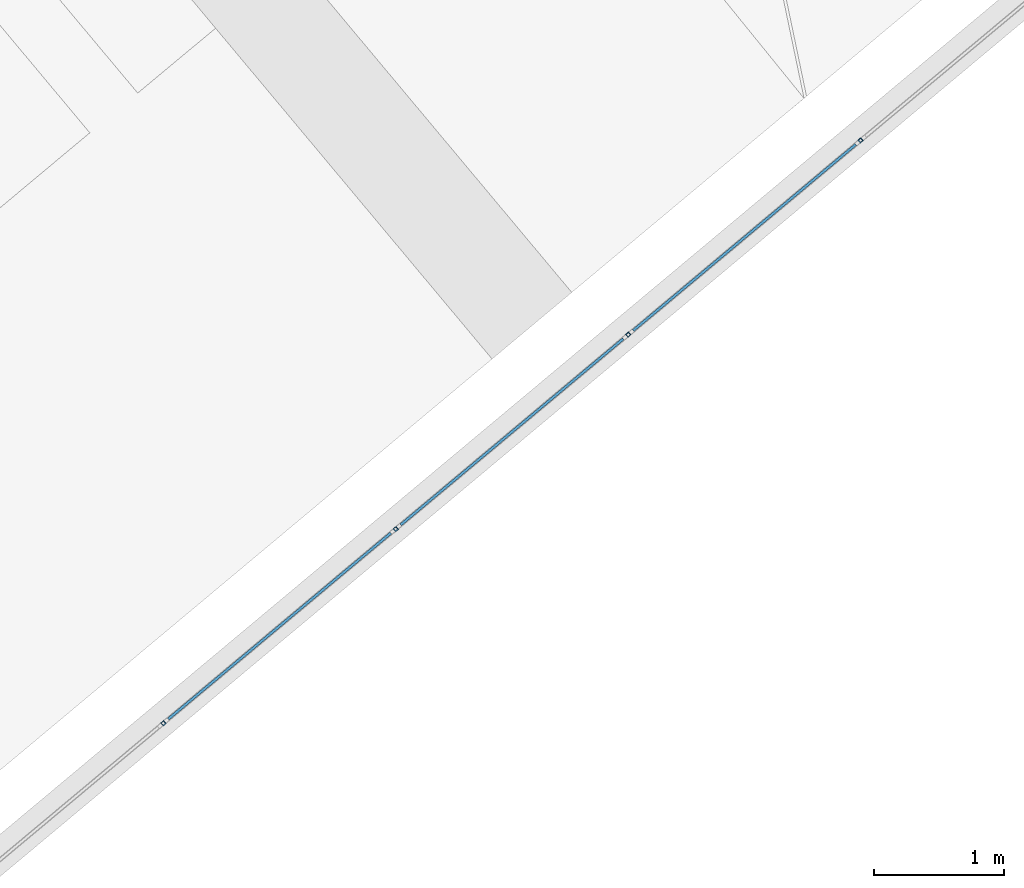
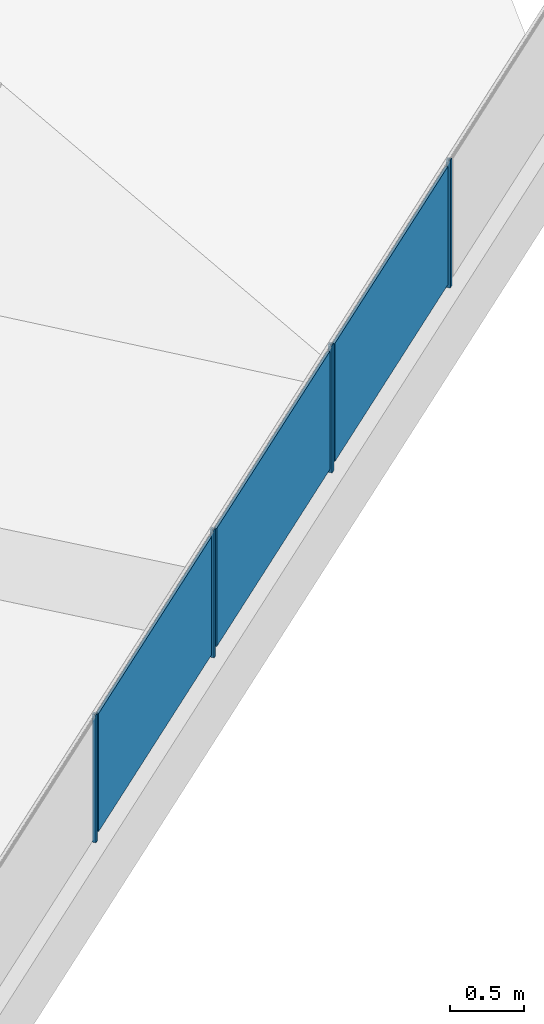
# One storey, part 25 of 67: 7 building element parts, 1 element without a shape of its own.
"""IFC4 building model written with IfcOpenShell, lengths in metres."""

from ifc_helpers import new_model, entity, si_unit, converted_unit, derived_unit, direction, frame, origin_with_axes, place, context, subcontext, project, spatial, polygons, material, type_object, element, aggregate, save


model = new_model("IFC4")

# Units and contexts
model_context = context("Model", 3, precision=1e-05, world=origin_with_axes(), true_north=direction((0.0, 1.0)))
body_context = subcontext(model_context, "Body", "Model", "MODEL_VIEW")
ifc_project = project(units=[si_unit("LENGTHUNIT", "METRE"), si_unit("AREAUNIT", "SQUARE_METRE"), si_unit("VOLUMEUNIT", "CUBIC_METRE"), converted_unit("PLANEANGLEUNIT", "DEGREE", entity("IfcPlaneAngleMeasure", 0.0174532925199), si_unit("PLANEANGLEUNIT", "RADIAN"), dimensions=[0, 0, 0, 0, 0, 0, 0]), converted_unit("TIMEUNIT", "Year", entity("IfcTimeMeasure", 31556926.0), si_unit("TIMEUNIT", "SECOND"), dimensions=[0, 0, 1, 0, 0, 0, 0]), si_unit("MASSUNIT", "GRAM", prefix="KILO"), si_unit("THERMODYNAMICTEMPERATUREUNIT", "DEGREE_CELSIUS"), si_unit("LUMINOUSINTENSITYUNIT", "LUMEN"), si_unit("ENERGYUNIT", "JOULE", prefix="MEGA"), derived_unit("THERMALCONDUCTANCEUNIT", [(si_unit("POWERUNIT", "WATT"), 1), (si_unit("LENGTHUNIT", "METRE"), -1), (si_unit("THERMODYNAMICTEMPERATUREUNIT", "KELVIN"), -1)]), derived_unit("SPECIFICHEATCAPACITYUNIT", [(si_unit("ENERGYUNIT", "JOULE"), 1), (si_unit("MASSUNIT", "GRAM", prefix="KILO"), -1), (si_unit("THERMODYNAMICTEMPERATUREUNIT", "KELVIN"), -1)]), derived_unit("MASSDENSITYUNIT", [(si_unit("MASSUNIT", "GRAM", prefix="KILO"), 1), (si_unit("VOLUMEUNIT", "CUBIC_METRE"), -1)])], contexts=[model_context])

# Site, building, storey
site_placement = place(None, frame((-0.00153261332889, -0.00661245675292, 0.0), z_axis=(0.0, 0.0, 1.0), x_axis=(1.0, 0.0, 0.0)))
site = spatial("IfcSite", under=ifc_project, at=site_placement, Name="Site", CompositionType="ELEMENT")
building_placement = place(site_placement, origin_with_axes())
building = spatial("IfcBuilding", under=site, at=building_placement, Name="Building", CompositionType="ELEMENT")
storey_placement = place(building_placement, frame((0.0, 0.0, -0.22), z_axis=(0.0, 0.0, 1.0), x_axis=(1.0, 0.0, 0.0)))
storey = spatial("IfcBuildingStorey", under=building, at=storey_placement, Name="EG", CompositionType="ELEMENT", Elevation=-0.22)

# Railing, building element parts
railing_type = type_object("IfcRailingType", Name="Geländerart", PredefinedType="NOTDEFINED")
railing_placement = place(storey_placement, frame((-12.1608341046, 23.557810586, 0.523948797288), z_axis=(0.0, 0.0, 1.0), x_axis=(1.0, 0.0, 0.0)))
railing = element("IfcRailing", 1, at=railing_placement, inside=storey, type_object=railing_type, Name="Geländer - 001", PredefinedType="NOTDEFINED")
ifc_material_1 = material(Name="Aluminium")
building_element_part_1_placement = place(railing_placement, origin_with_axes())
building_element_part_1 = element("IfcBuildingElementPart", 2, at=building_element_part_1_placement, material=ifc_material_1, Name="Aluminium", PredefinedType="NOTDEFINED", context=body_context, shape_type="Tessellation", body=[
    polygons([(22.9423490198, -14.4311782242, 0.0), (22.9231108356, -14.4081588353, 0.0), (22.9231108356, -14.4081588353, 1.06), (22.9423490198, -14.4311782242, 1.06), (22.9193296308, -14.4504164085, 0.0), (22.9000914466, -14.4273970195, 0.0), (22.9353060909, -14.4305480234, 0.0), (22.9224806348, -14.4152017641, 0.0), (22.9071343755, -14.4280272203, 0.0), (22.9199598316, -14.4433734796, 0.0), (22.9000914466, -14.4273970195, 1.06), (22.9193296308, -14.4504164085, 1.06), (22.9353060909, -14.4305480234, 1.06), (22.9199598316, -14.4433734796, 1.06), (22.9071343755, -14.4280272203, 1.06), (22.9224806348, -14.4152017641, 1.06)], [[[1, 2, 3, 4]], [[1, 5, 6, 2], [7, 8, 9, 10]], [[2, 6, 11, 3]], [[4, 3, 11, 12], [13, 14, 15, 16]], [[5, 1, 4, 12]], [[6, 5, 12, 11]], [[8, 7, 13, 16]], [[9, 8, 16, 15]], [[10, 9, 15, 14]], [[7, 10, 14, 13]]], closed=True),
])
ifc_material_2 = material(Name="Zaun")
building_element_part_2_placement = place(railing_placement, origin_with_axes())
building_element_part_2 = element("IfcBuildingElementPart", 3, at=building_element_part_2_placement, material=ifc_material_2, Name="Zaun", PredefinedType="NOTDEFINED", context=body_context, shape_type="Tessellation", body=[
    polygons([(24.6673535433, -12.956944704, 0.05), (22.9531731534, -14.3895508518, 0.05), (22.9531731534, -14.3895508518, 1.03), (24.6673535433, -12.956944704, 1.03), (22.9659986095, -14.4048971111, 0.05), (24.6801789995, -12.9722909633, 0.05), (22.9659986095, -14.4048971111, 1.03), (24.6801789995, -12.9722909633, 1.03)], [[[1, 2, 3, 4]], [[5, 2, 1, 6]], [[7, 3, 2, 5]], [[4, 3, 7, 8]], [[1, 4, 8, 6]], [[7, 5, 6, 8]]], closed=True),
])
building_element_part_3_placement = place(railing_placement, origin_with_axes())
building_element_part_3 = element("IfcBuildingElementPart", 4, at=building_element_part_3_placement, material=ifc_material_1, Name="Aluminium", PredefinedType="NOTDEFINED", context=body_context, shape_type="Tessellation", body=[
    polygons([(24.7332607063, -12.9344447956, 0.0), (24.714022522, -12.9114254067, 0.0), (24.714022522, -12.9114254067, 1.06), (24.7332607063, -12.9344447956, 1.06), (24.7102413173, -12.9536829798, 0.0), (24.6910031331, -12.9306635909, 0.0), (24.7262177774, -12.9338145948, 0.0), (24.7133923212, -12.9184683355, 0.0), (24.6980460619, -12.9312937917, 0.0), (24.7108715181, -12.946640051, 0.0), (24.6910031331, -12.9306635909, 1.06), (24.7102413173, -12.9536829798, 1.06), (24.7262177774, -12.9338145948, 1.06), (24.7108715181, -12.946640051, 1.06), (24.6980460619, -12.9312937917, 1.06), (24.7133923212, -12.9184683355, 1.06)], [[[1, 2, 3, 4]], [[1, 5, 6, 2], [7, 8, 9, 10]], [[2, 6, 11, 3]], [[4, 3, 11, 12], [13, 14, 15, 16]], [[5, 1, 4, 12]], [[6, 5, 12, 11]], [[8, 7, 13, 16]], [[9, 8, 16, 15]], [[10, 9, 15, 14]], [[7, 10, 14, 13]]], closed=True),
])
building_element_part_4_placement = place(railing_placement, origin_with_axes())
building_element_part_4 = element("IfcBuildingElementPart", 5, at=building_element_part_4_placement, material=ifc_material_2, Name="Zaun", PredefinedType="NOTDEFINED", context=body_context, shape_type="Tessellation", body=[
    polygons([(26.4582652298, -11.4602112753, 0.05), (24.7440848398, -12.8928174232, 0.05), (24.7440848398, -12.8928174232, 1.03), (26.4582652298, -11.4602112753, 1.03), (24.756910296, -12.9081636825, 0.05), (26.4710906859, -11.4755575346, 0.05), (24.756910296, -12.9081636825, 1.03), (26.4710906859, -11.4755575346, 1.03)], [[[1, 2, 3, 4]], [[5, 2, 1, 6]], [[7, 3, 2, 5]], [[4, 3, 7, 8]], [[1, 4, 8, 6]], [[7, 5, 6, 8]]], closed=True),
])
building_element_part_5_placement = place(railing_placement, origin_with_axes())
building_element_part_5 = element("IfcBuildingElementPart", 6, at=building_element_part_5_placement, material=ifc_material_1, Name="Aluminium", PredefinedType="NOTDEFINED", context=body_context, shape_type="Tessellation", body=[
    polygons([(26.5241723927, -11.437711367, 0.0), (26.5049342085, -11.414691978, 0.0), (26.5049342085, -11.414691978, 1.06), (26.5241723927, -11.437711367, 1.06), (26.5011530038, -11.4569495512, 0.0), (26.4819148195, -11.4339301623, 0.0), (26.5171294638, -11.4370811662, 0.0), (26.5043040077, -11.4217349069, 0.0), (26.4889577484, -11.434560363, 0.0), (26.5017832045, -11.4499066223, 0.0), (26.4819148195, -11.4339301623, 1.06), (26.5011530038, -11.4569495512, 1.06), (26.5171294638, -11.4370811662, 1.06), (26.5017832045, -11.4499066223, 1.06), (26.4889577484, -11.434560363, 1.06), (26.5043040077, -11.4217349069, 1.06)], [[[1, 2, 3, 4]], [[1, 5, 6, 2], [7, 8, 9, 10]], [[2, 6, 11, 3]], [[4, 3, 11, 12], [13, 14, 15, 16]], [[5, 1, 4, 12]], [[6, 5, 12, 11]], [[8, 7, 13, 16]], [[9, 8, 16, 15]], [[10, 9, 15, 14]], [[7, 10, 14, 13]]], closed=True),
])
building_element_part_6_placement = place(railing_placement, origin_with_axes())
building_element_part_6 = element("IfcBuildingElementPart", 7, at=building_element_part_6_placement, material=ifc_material_2, Name="Zaun", PredefinedType="NOTDEFINED", context=body_context, shape_type="Tessellation", body=[
    polygons([(28.2491769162, -9.96347784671, 0.05), (26.5349965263, -11.3960839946, 0.05), (26.5349965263, -11.3960839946, 1.03), (28.2491769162, -9.96347784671, 1.03), (26.5478219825, -11.4114302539, 0.05), (28.2620023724, -9.97882410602, 0.05), (26.5478219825, -11.4114302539, 1.03), (28.2620023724, -9.97882410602, 1.03)], [[[1, 2, 3, 4]], [[5, 2, 1, 6]], [[7, 3, 2, 5]], [[4, 3, 7, 8]], [[1, 4, 8, 6]], [[7, 5, 6, 8]]], closed=True),
])
building_element_part_7_placement = place(railing_placement, origin_with_axes())
building_element_part_7 = element("IfcBuildingElementPart", 8, at=building_element_part_7_placement, material=ifc_material_1, Name="Aluminium", PredefinedType="NOTDEFINED", context=body_context, shape_type="Tessellation", body=[
    polygons([(28.3150840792, -9.94097793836, 0.0), (28.2958458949, -9.9179585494, 0.0), (28.2958458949, -9.9179585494, 1.06), (28.3150840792, -9.94097793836, 1.06), (28.2920646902, -9.96021612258, 0.0), (28.272826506, -9.93719673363, 0.0), (28.3080411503, -9.94034773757, 0.0), (28.2952156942, -9.92500147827, 0.0), (28.2798694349, -9.93782693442, 0.0), (28.292694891, -9.95317319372, 0.0), (28.272826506, -9.93719673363, 1.06), (28.2920646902, -9.96021612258, 1.06), (28.3080411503, -9.94034773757, 1.06), (28.292694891, -9.95317319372, 1.06), (28.2798694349, -9.93782693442, 1.06), (28.2952156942, -9.92500147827, 1.06)], [[[1, 2, 3, 4]], [[1, 5, 6, 2], [7, 8, 9, 10]], [[2, 6, 11, 3]], [[4, 3, 11, 12], [13, 14, 15, 16]], [[5, 1, 4, 12]], [[6, 5, 12, 11]], [[8, 7, 13, 16]], [[9, 8, 16, 15]], [[10, 9, 15, 14]], [[7, 10, 14, 13]]], closed=True),
])
aggregate(railing, [building_element_part_1, building_element_part_2, building_element_part_3, building_element_part_4, building_element_part_5, building_element_part_6, building_element_part_7])

save(model, "model.ifc")
